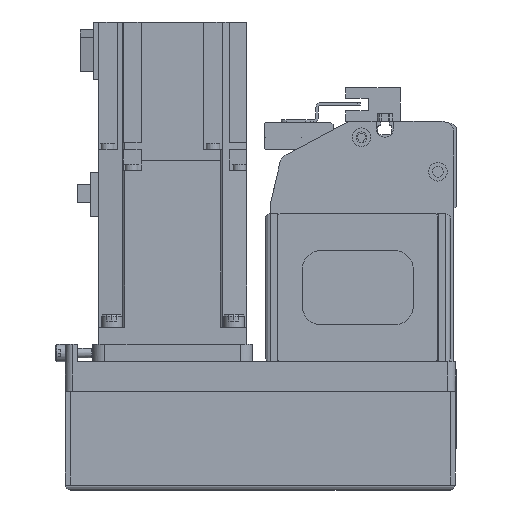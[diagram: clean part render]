
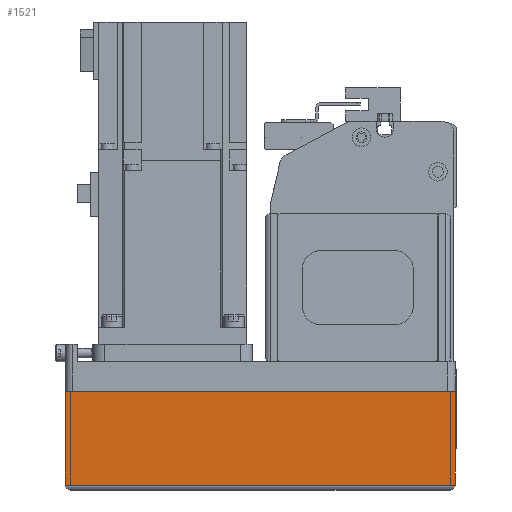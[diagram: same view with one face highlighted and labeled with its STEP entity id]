
A CAD part, left-side view. The second image highlights one B-rep face of the part: STEP entity #1521.
In plain terms, the highlighted planar face has unit normal (-1, 0, 0) as drawn and (0, -1, 0) by its records, which use the part's own axes.
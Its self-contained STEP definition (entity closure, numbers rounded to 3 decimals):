
#1521 = ADVANCED_FACE( '', ( #3855 ), #3856, .T. );
#3855 = FACE_OUTER_BOUND( '', #7286, .T. );
#3856 = PLANE( '', #7287 );
#7286 = EDGE_LOOP( '', ( #11643, #11644, #11645, #11646 ) );
#7287 = AXIS2_PLACEMENT_3D( '', #11647, #11648, #11649 );
#11643 = ORIENTED_EDGE( '', *, *, #20175, .F. );
#11644 = ORIENTED_EDGE( '', *, *, #20176, .F. );
#11645 = ORIENTED_EDGE( '', *, *, #20177, .T. );
#11646 = ORIENTED_EDGE( '', *, *, #20178, .T. );
#11647 = CARTESIAN_POINT( '', ( -158., -39., -12.1 ) );
#11648 = DIRECTION( '', ( 0., -1., 0. ) );
#11649 = DIRECTION( '', ( 0., 0., -1. ) );
#20175 = EDGE_CURVE( '', #24376, #24377, #24378, .T. );
#20176 = EDGE_CURVE( '', #24379, #24376, #24380, .T. );
#20177 = EDGE_CURVE( '', #24379, #23243, #24381, .T. );
#20178 = EDGE_CURVE( '', #23243, #24377, #24382, .T. );
#23243 = VERTEX_POINT( '', #28723 );
#24376 = VERTEX_POINT( '', #30381 );
#24377 = VERTEX_POINT( '', #30382 );
#24378 = LINE( '', #30383, #30384 );
#24379 = VERTEX_POINT( '', #30385 );
#24380 = LINE( '', #30386, #30387 );
#24381 = LINE( '', #30388, #30389 );
#24382 = LINE( '', #30390, #30391 );
#28723 = CARTESIAN_POINT( '', ( -158., -39., -50. ) );
#30381 = CARTESIAN_POINT( '', ( 0., -39., -12.1 ) );
#30382 = CARTESIAN_POINT( '', ( 0., -39., -50. ) );
#30383 = CARTESIAN_POINT( '', ( 0., -39., -12.1 ) );
#30384 = VECTOR( '', #37216, 1000. );
#30385 = CARTESIAN_POINT( '', ( -158., -39., -12.1 ) );
#30386 = CARTESIAN_POINT( '', ( -158., -39., -12.1 ) );
#30387 = VECTOR( '', #37217, 1000. );
#30388 = CARTESIAN_POINT( '', ( -158., -39., -12.1 ) );
#30389 = VECTOR( '', #37218, 1000. );
#30390 = CARTESIAN_POINT( '', ( -158., -39., -50. ) );
#30391 = VECTOR( '', #37219, 1000. );
#37216 = DIRECTION( '', ( 0., 0., -1. ) );
#37217 = DIRECTION( '', ( 1., 0., 0. ) );
#37218 = DIRECTION( '', ( 0., 0., -1. ) );
#37219 = DIRECTION( '', ( 1., 0., 0. ) );
